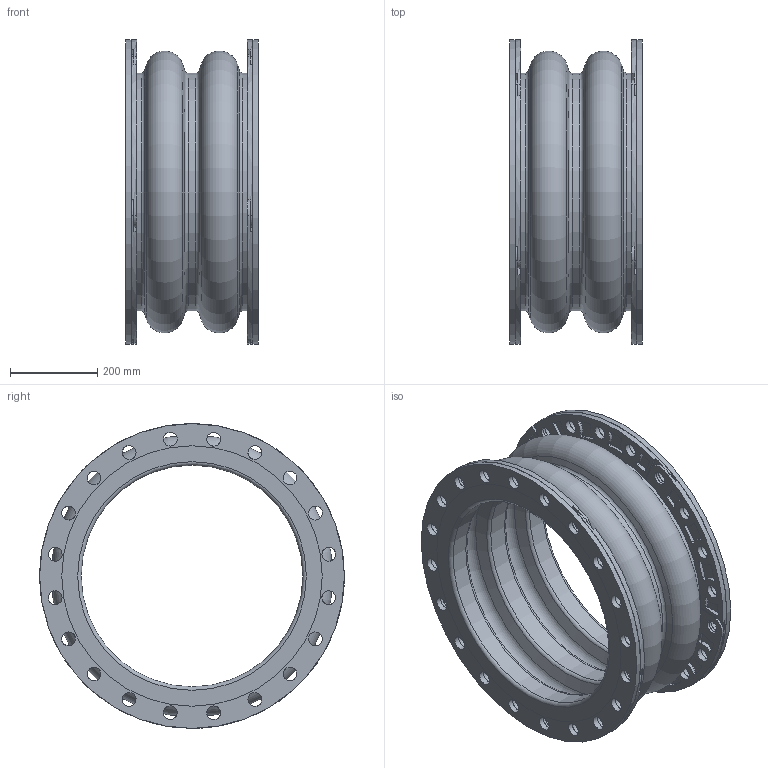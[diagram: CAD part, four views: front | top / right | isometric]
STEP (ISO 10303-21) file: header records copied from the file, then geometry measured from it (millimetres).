
FILE_DESCRIPTION(/* description */ (''),/* implementation_level */ '2;1');
FILE_NAME(/* name */ 'C:\001_Work\Designs\Mercer2014\702 20IDx12FF.stp',/* time_stamp */ '2016-04-10T14:39:00-04:00',/* author */ ('rramoutar'),/* organization */ ('Mason Industries Inc.'),/* preprocessor_version */ 'ST-DEVELOPER v15.6',/* originating_system */ 'Autodesk Inventor 2015',/* authorisation */ '');
FILE_SCHEMA (('CONFIG_CONTROL_DESIGN'));
Length unit declared in the file: inch
Products named in the file (1): 702 20IDx12FF
Bounding box: 304.8 x 698.5 x 698.5 mm (x, y, z)
Volume: 19996043.8 mm3; surface area: 2940801.9 mm2
Topology: 11 solids, 11 shells, 626 faces, 1666 edges, 1106 vertices
Faces by surface type: cylinder 458, plane 146, torus 14, cone 8
Full cylindrical faces by diameter (mm): 31.75 x90, 508 x3, 544.512 x3, 698.5 x2
Entity records: 20394 total; most frequent: DIRECTION 3766, CARTESIAN_POINT 3259, ORIENTED_EDGE 3072, AXIS2_PLACEMENT_3D 1603, EDGE_CURVE 1536, VERTEX_POINT 1096, CIRCLE 976, EDGE_LOOP 972
